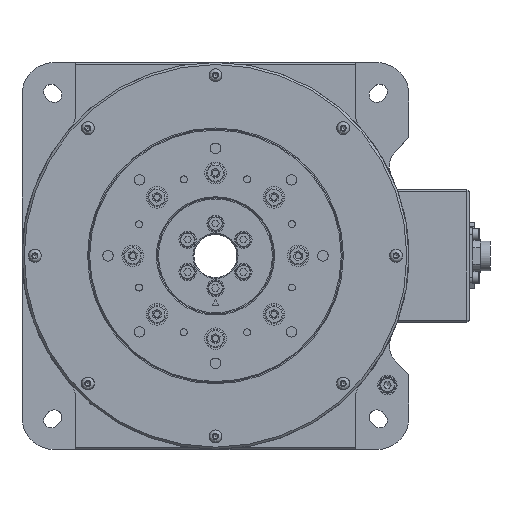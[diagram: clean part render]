
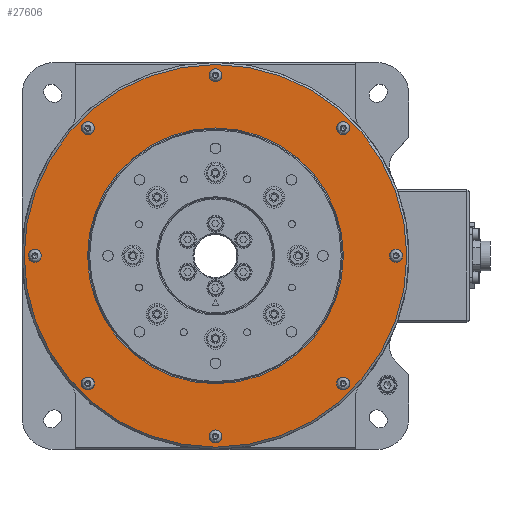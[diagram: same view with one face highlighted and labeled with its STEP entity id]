
A CAD part, top view. The second image highlights one B-rep face of the part: STEP entity #27606.
In plain terms, the highlighted planar face has unit normal (0, 0, 1).
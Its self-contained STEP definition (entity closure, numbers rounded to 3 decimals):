
#5443=PLANE($,#29585);
#6184=FACE_BOUND($,#9380,.T.);
#6185=FACE_BOUND($,#9381,.T.);
#6186=FACE_BOUND($,#9382,.T.);
#6187=FACE_BOUND($,#9383,.T.);
#6188=FACE_BOUND($,#9384,.T.);
#6189=FACE_BOUND($,#9385,.T.);
#6190=FACE_BOUND($,#9386,.T.);
#6191=FACE_BOUND($,#9387,.T.);
#6192=FACE_BOUND($,#9388,.T.);
#6193=FACE_BOUND($,#9389,.T.);
#9380=EDGE_LOOP($,(#22136));
#9381=EDGE_LOOP($,(#22137));
#9382=EDGE_LOOP($,(#22138));
#9383=EDGE_LOOP($,(#22139));
#9384=EDGE_LOOP($,(#22140));
#9385=EDGE_LOOP($,(#22141));
#9386=EDGE_LOOP($,(#22142));
#9387=EDGE_LOOP($,(#22143));
#9388=EDGE_LOOP($,(#22144));
#9389=EDGE_LOOP($,(#22145));
#10868=CIRCLE($,#29586,3.);
#10869=CIRCLE($,#29587,3.);
#10870=CIRCLE($,#29588,3.);
#10871=CIRCLE($,#29589,3.);
#10872=CIRCLE($,#29590,3.);
#10873=CIRCLE($,#29591,3.);
#10874=CIRCLE($,#29592,3.);
#10875=CIRCLE($,#29593,3.);
#10876=CIRCLE($,#29594,59.5);
#10877=CIRCLE($,#29595,89.);
#12995=VERTEX_POINT($,#87442);
#12996=VERTEX_POINT($,#87444);
#12997=VERTEX_POINT($,#87446);
#12998=VERTEX_POINT($,#87448);
#12999=VERTEX_POINT($,#87450);
#13000=VERTEX_POINT($,#87452);
#13001=VERTEX_POINT($,#87454);
#13002=VERTEX_POINT($,#87456);
#13003=VERTEX_POINT($,#87458);
#13004=VERTEX_POINT($,#87460);
#16252=EDGE_CURVE($,#12995,#12995,#10868,.T.);
#16253=EDGE_CURVE($,#12996,#12996,#10869,.T.);
#16254=EDGE_CURVE($,#12997,#12997,#10870,.T.);
#16255=EDGE_CURVE($,#12998,#12998,#10871,.T.);
#16256=EDGE_CURVE($,#12999,#12999,#10872,.T.);
#16257=EDGE_CURVE($,#13000,#13000,#10873,.T.);
#16258=EDGE_CURVE($,#13001,#13001,#10874,.T.);
#16259=EDGE_CURVE($,#13002,#13002,#10875,.T.);
#16260=EDGE_CURVE($,#13003,#13003,#10876,.T.);
#16261=EDGE_CURVE($,#13004,#13004,#10877,.T.);
#22136=ORIENTED_EDGE($,*,*,#16252,.T.);
#22137=ORIENTED_EDGE($,*,*,#16253,.T.);
#22138=ORIENTED_EDGE($,*,*,#16254,.T.);
#22139=ORIENTED_EDGE($,*,*,#16255,.T.);
#22140=ORIENTED_EDGE($,*,*,#16256,.T.);
#22141=ORIENTED_EDGE($,*,*,#16257,.T.);
#22142=ORIENTED_EDGE($,*,*,#16258,.T.);
#22143=ORIENTED_EDGE($,*,*,#16259,.T.);
#22144=ORIENTED_EDGE($,*,*,#16260,.T.);
#22145=ORIENTED_EDGE($,*,*,#16261,.F.);
#27606=ADVANCED_FACE($,(#6184,#6185,#6186,#6187,#6188,#6189,#6190,#6191,
#6192,#6193),#5443,.T.);
#29585=AXIS2_PLACEMENT_3D($,#87441,#34386,#34387);
#29586=AXIS2_PLACEMENT_3D($,#87443,#34388,#34389);
#29587=AXIS2_PLACEMENT_3D($,#87445,#34390,#34391);
#29588=AXIS2_PLACEMENT_3D($,#87447,#34392,#34393);
#29589=AXIS2_PLACEMENT_3D($,#87449,#34394,#34395);
#29590=AXIS2_PLACEMENT_3D($,#87451,#34396,#34397);
#29591=AXIS2_PLACEMENT_3D($,#87453,#34398,#34399);
#29592=AXIS2_PLACEMENT_3D($,#87455,#34400,#34401);
#29593=AXIS2_PLACEMENT_3D($,#87457,#34402,#34403);
#29594=AXIS2_PLACEMENT_3D($,#87459,#34404,#34405);
#29595=AXIS2_PLACEMENT_3D($,#87461,#34406,#34407);
#34386=DIRECTION('center_axis',(0.,0.,
1.));
#34387=DIRECTION('ref_axis',(1.,0.,0.));
#34388=DIRECTION('center_axis',(0.,0.,
-1.));
#34389=DIRECTION('ref_axis',(0.707,-0.707,0.));
#34390=DIRECTION('center_axis',(0.,0.,
-1.));
#34391=DIRECTION('ref_axis',(0.,-1.,0.));
#34392=DIRECTION('center_axis',(0.,0.,
-1.));
#34393=DIRECTION('ref_axis',(-0.707,-0.707,0.));
#34394=DIRECTION('center_axis',(0.,0.,
-1.));
#34395=DIRECTION('ref_axis',(-1.,0.,0.));
#34396=DIRECTION('center_axis',(0.,0.,
-1.));
#34397=DIRECTION('ref_axis',(-0.707,0.707,0.));
#34398=DIRECTION('center_axis',(0.,0.,
-1.));
#34399=DIRECTION('ref_axis',(0.,1.,0.));
#34400=DIRECTION('center_axis',(0.,0.,
-1.));
#34401=DIRECTION('ref_axis',(0.707,0.707,0.));
#34402=DIRECTION('center_axis',(0.,0.,
-1.));
#34403=DIRECTION('ref_axis',(1.,0.,0.));
#34404=DIRECTION('center_axis',(0.,0.,
-1.));
#34405=DIRECTION('ref_axis',(-1.,0.,0.));
#34406=DIRECTION('center_axis',(0.,0.,
-1.));
#34407=DIRECTION('ref_axis',(-1.,0.,0.));
#87441=CARTESIAN_POINT('Origin',(121.,121.5,93.));
#87442=CARTESIAN_POINT('',(182.518,178.776,93.));
#87443=CARTESIAN_POINT('Origin',(180.397,180.897,93.));
#87444=CARTESIAN_POINT('',(205.,118.5,93.));
#87445=CARTESIAN_POINT('Origin',(205.,121.5,93.));
#87446=CARTESIAN_POINT('',(178.276,59.982,93.));
#87447=CARTESIAN_POINT('Origin',(180.397,62.103,93.));
#87448=CARTESIAN_POINT('',(118.,37.5,93.));
#87449=CARTESIAN_POINT('Origin',(121.,37.5,93.));
#87450=CARTESIAN_POINT('',(59.482,64.224,93.));
#87451=CARTESIAN_POINT('Origin',(61.603,62.103,93.));
#87452=CARTESIAN_POINT('',(37.,124.5,93.));
#87453=CARTESIAN_POINT('Origin',(37.,121.5,93.));
#87454=CARTESIAN_POINT('',(63.724,183.018,93.));
#87455=CARTESIAN_POINT('Origin',(61.603,180.897,93.));
#87456=CARTESIAN_POINT('',(124.,205.5,93.));
#87457=CARTESIAN_POINT('Origin',(121.,205.5,93.));
#87458=CARTESIAN_POINT('',(180.5,121.5,93.));
#87459=CARTESIAN_POINT('Origin',(121.,121.5,93.));
#87460=CARTESIAN_POINT('',(210.,121.5,93.));
#87461=CARTESIAN_POINT('Origin',(121.,121.5,93.));
